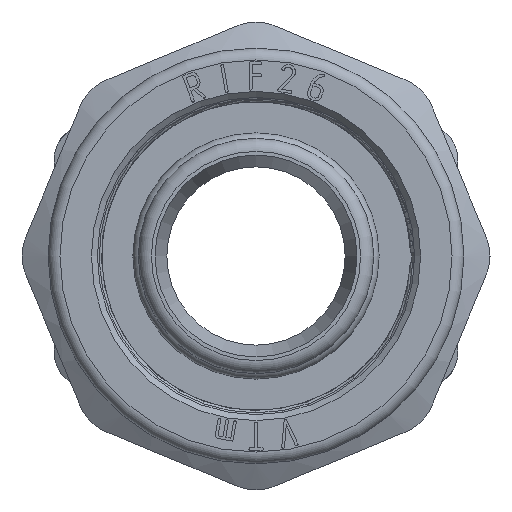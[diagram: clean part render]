
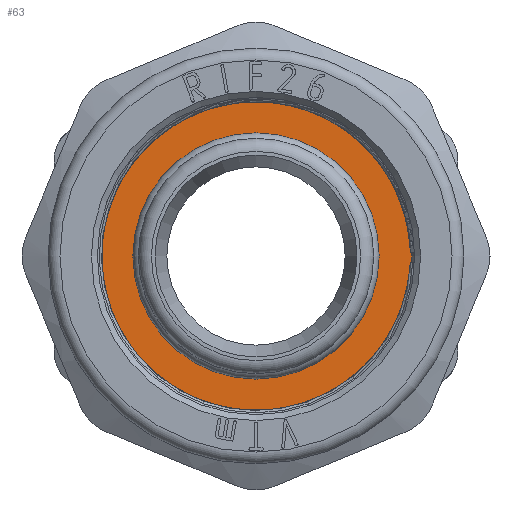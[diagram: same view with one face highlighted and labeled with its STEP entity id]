
A CAD part, front view. The second image highlights one B-rep face of the part: STEP entity #63.
In plain terms, the highlighted planar face has unit normal (0, -1, 0).
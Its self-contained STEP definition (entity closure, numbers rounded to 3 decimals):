
#63=ADVANCED_FACE('',(#748,#750),#752,.T.);
#748=FACE_BOUND('',#749,.T.);
#749=EDGE_LOOP('',(#4900));
#750=FACE_BOUND('',#751,.T.);
#751=EDGE_LOOP('',(#4901));
#752=PLANE('',#753);
#753=AXIS2_PLACEMENT_3D('',#754,#755,#756);
#754=CARTESIAN_POINT('',(0.,-9.15,0.));
#755=DIRECTION('',(0.,-1.,0.));
#756=DIRECTION('',(1.,0.,0.));
#4900=ORIENTED_EDGE('',*,*,#8743,.T.);
#4901=ORIENTED_EDGE('',*,*,#8746,.T.);
#8743=EDGE_CURVE('',#10328,#10328,#10329,.F.);
#8746=EDGE_CURVE('',#10334,#10334,#10335,.F.);
#10328=VERTEX_POINT('',#13077);
#10329=CIRCLE('',#13078,13.1);
#10334=VERTEX_POINT('',#13092);
#10335=CIRCLE('',#13093,10.);
#13077=CARTESIAN_POINT('',(-13.1,-9.15,0.));
#13078=AXIS2_PLACEMENT_3D('',#13079,#13080,#13081);
#13079=CARTESIAN_POINT('',(0.,-9.15,0.));
#13080=DIRECTION('',(0.,1.,0.));
#13081=DIRECTION('',(-1.,0.,0.));
#13092=CARTESIAN_POINT('',(10.,-9.15,0.));
#13093=AXIS2_PLACEMENT_3D('',#13094,#13095,#13096);
#13094=CARTESIAN_POINT('',(0.,-9.15,0.));
#13095=DIRECTION('',(0.,-1.,0.));
#13096=DIRECTION('',(1.,0.,0.));
